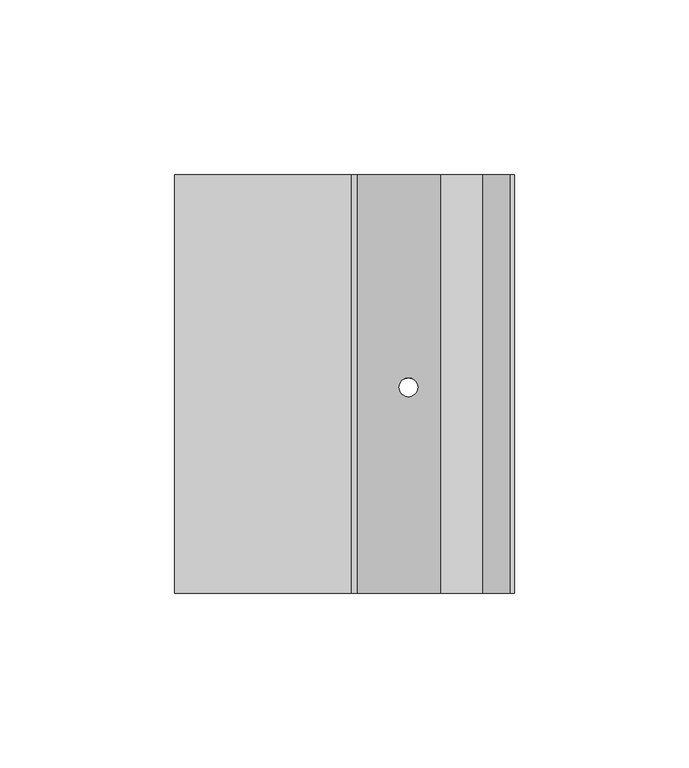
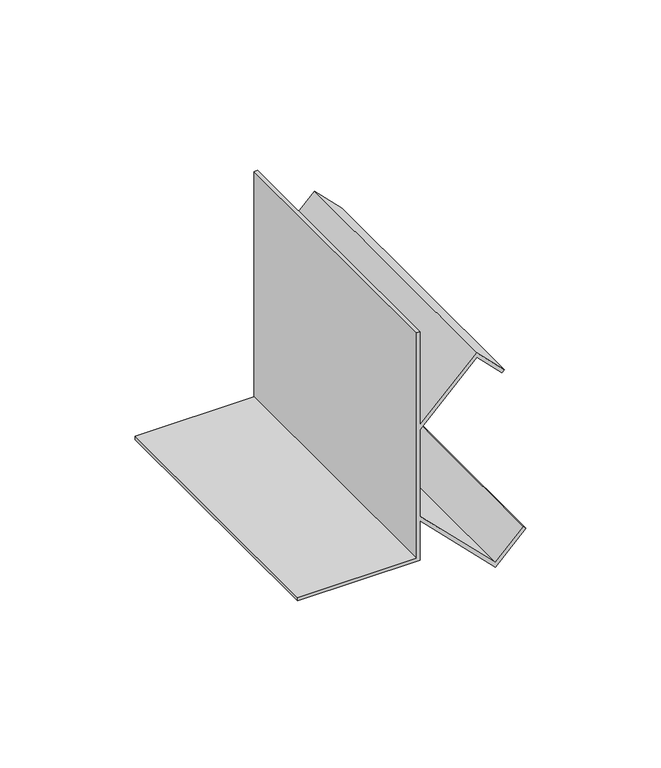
"""IFC4 building model written with IfcOpenShell, lengths in millimetres: proxy geometry, Mechanical Fittings & Accessories10 : Mechanical Fittings & Accessories."""

from ifc_helpers import new_model, si_unit, frame, origin, place, context, project, spatial, polyline, ellipse_curve, source, transform, mapped, element, save
from ifc_brep_helpers import plane_surface, revolved_surface, advanced_brep


def generic_models_4601ddb1(model_context):
    return source(origin(), model_context, "Body", "AdvancedBrep", [
        advanced_brep(
        [(-12208.7639562, 827.5745236, 4114.8), (-12259.5639562, 827.5745236, 4114.8), (-12259.5639562, 827.5745236, 4113.3117188), (-12207.275675, 827.5745236, 4113.3117188), (-12207.275675, 827.5745236, 4131.1383509), (-12175.165914, 827.5745236, 4099.0285899), (-12162.1869427, 827.5745236, 4112.0075612), (-12163.2393164, 827.5745236, 4113.059935), (-12175.165914, 827.5745236, 4101.1333374), (-12207.275675, 827.5745236, 4133.2430984), (-12207.275675, 827.5745236, 4172.2761118), (-12183.103414, 827.5745236, 4196.4483729), (-12172.3674414, 827.5745236, 4185.7124003), (-12171.3150677, 827.5745236, 4186.7647741), (-12183.103414, 827.5745236, 4198.5531204), (-12207.275675, 827.5745236, 4174.3808594), (-12207.275675, 827.5745236, 4216.4), (-12208.7639562, 827.5745236, 4216.4), (-12208.7639562, 947.5426707, 4114.8), (-12208.7639562, 947.5426707, 4216.4), (-12207.275675, 947.5426707, 4216.4), (-12207.275675, 947.5426707, 4174.3808594), (-12183.103414, 947.5426707, 4198.5531204), (-12171.3150677, 947.5426707, 4186.7647741), (-12172.3674414, 947.5426707, 4185.7124003), (-12183.103414, 947.5426707, 4196.4483729), (-12207.275675, 947.5426707, 4172.2761118), (-12207.275675, 947.5426707, 4133.2430984), (-12175.165914, 947.5426707, 4101.1333374), (-12163.2393164, 947.5426707, 4113.059935), (-12162.1869427, 947.5426707, 4112.0075612), (-12175.165914, 947.5426707, 4099.0285899), (-12207.275675, 947.5426707, 4131.1383509), (-12207.275675, 947.5426707, 4113.3117188), (-12259.5639562, 947.5426707, 4113.3117188), (-12259.5639562, 947.5426707, 4114.8), (-12195.1617646, 886.5972731, 4119.0244406), (-12189.8223978, 886.5972731, 4113.6850737), (-12189.8223978, 886.5972731, 4115.7898213), (-12195.1617646, 886.5972731, 4121.1291881), (-12195.1617646, 886.5972731, 4184.3900222), (-12189.8223978, 886.5972731, 4189.729389), (-12189.8223978, 886.5972731, 4191.8341365), (-12195.1617646, 886.5972731, 4186.4947697)],
        [
            (0, 1),
            (1, 2),
            (2, 3),
            (3, 4),
            (4, 5),
            (5, 6),
            (6, 7),
            (7, 8),
            (8, 9),
            (9, 10),
            (10, 11),
            (11, 12),
            (12, 13),
            (13, 14),
            (14, 15),
            (15, 16),
            (16, 17),
            (17, 0),
            (18, 19),
            (19, 20),
            (20, 21),
            (21, 22),
            (22, 23),
            (23, 24),
            (24, 25),
            (25, 26),
            (26, 27),
            (27, 28),
            (28, 29),
            (29, 30),
            (30, 31),
            (31, 32),
            (32, 33),
            (33, 34),
            (34, 35),
            (35, 18),
            (0, 18),
            (35, 1),
            (34, 2),
            (33, 3),
            (32, 4),
            (31, 5),
            (36, 37, ellipse_curve(frame((-12192.4920812, 886.5972731, 4116.3547571), z_axis=(0.7071067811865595, 0.0, 0.7071067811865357), x_axis=(-0.7071067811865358, 0.0, 0.7071067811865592)), 3.7755025, 2.6696834)),
            (37, 36, ellipse_curve(frame((-12192.4920812, 886.5972731, 4116.3547571), z_axis=(0.7071067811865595, 0.0, 0.7071067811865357), x_axis=(-0.7071067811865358, 0.0, 0.7071067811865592)), 3.7755025, 2.6696834)),
            (30, 6),
            (29, 7),
            (28, 8),
            (27, 9),
            (38, 39, ellipse_curve(frame((-12192.4920812, 886.5972731, 4118.4595047), z_axis=(-0.7071067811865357, 0.0, -0.7071067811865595), x_axis=(-0.7071067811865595, 0.0, 0.7071067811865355)), 3.7755025, 2.6696834)),
            (39, 38, ellipse_curve(frame((-12192.4920812, 886.5972731, 4118.4595047), z_axis=(-0.7071067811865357, 0.0, -0.7071067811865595), x_axis=(-0.7071067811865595, 0.0, 0.7071067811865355)), 3.7755025, 2.6696834)),
            (26, 10),
            (25, 11),
            (40, 41, ellipse_curve(frame((-12192.4920812, 886.5972731, 4187.0597056), z_axis=(-0.7071067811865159, 0.0, 0.7071067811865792), x_axis=(0.7071067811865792, 0.0, 0.7071067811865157)), 3.7755025, 2.6696834)),
            (41, 40, ellipse_curve(frame((-12192.4920812, 886.5972731, 4187.0597056), z_axis=(-0.7071067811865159, 0.0, 0.7071067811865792), x_axis=(0.7071067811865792, 0.0, 0.7071067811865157)), 3.7755025, 2.6696834)),
            (24, 12),
            (23, 13),
            (22, 14),
            (21, 15),
            (42, 43, ellipse_curve(frame((-12192.4920812, 886.5972731, 4189.1644531), z_axis=(0.7071067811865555, 0.0, -0.7071067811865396), x_axis=(0.7071067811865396, 0.0, 0.7071067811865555)), 3.7755025, 2.6696834)),
            (43, 42, ellipse_curve(frame((-12192.4920812, 886.5972731, 4189.1644531), z_axis=(0.7071067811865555, 0.0, -0.7071067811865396), x_axis=(0.7071067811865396, 0.0, 0.7071067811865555)), 3.7755025, 2.6696834)),
            (20, 16),
            (19, 17),
            (36, 39),
            (38, 37),
            (40, 43),
            (42, 41),
        ],
        [
            plane_surface(frame((-12259.5639562, 827.5745236, 4114.8), z_axis=(0.0, -1.0, 0.0), x_axis=(-1.0, 0.0, 0.0))),
            plane_surface(frame((-12259.5639562, 947.5426707, 4114.8), z_axis=(0.0, 1.0, 0.0), x_axis=(1.0, 0.0, 0.0))),
            plane_surface(frame((-12208.7639562, 827.5745236, 4114.8), z_axis=(0.0, 0.0, 1.0), x_axis=(0.0, 1.0, 0.0))),
            plane_surface(frame((-12259.5639562, 827.5745236, 4114.8), z_axis=(-1.0, 0.0, 0.0), x_axis=(0.0, 1.0, 0.0))),
            plane_surface(frame((-12259.5639562, 827.5745236, 4113.3117188), z_axis=(0.0, 0.0, -1.0), x_axis=(0.0, 1.0, 0.0))),
            plane_surface(frame((-12207.275675, 827.5745236, 4113.3117188), z_axis=(1.0, 0.0, 0.0), x_axis=(0.0, 1.0, 0.0))),
            plane_surface(frame((-12207.275675, 827.5745236, 4131.1383509), z_axis=(-0.7071067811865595, 0.0, -0.7071067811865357), x_axis=(0.0, 1.0, 0.0))),
            plane_surface(frame((-12175.165914, 827.5745236, 4099.0285899), z_axis=(0.7071067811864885, 0.0, -0.7071067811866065), x_axis=(0.0, 1.0, 0.0))),
            plane_surface(frame((-12162.1869427, 827.5745236, 4112.0075612), z_axis=(0.7071067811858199, 0.0, 0.7071067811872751), x_axis=(0.0, 1.0, 0.0))),
            plane_surface(frame((-12163.2393164, 827.5745236, 4113.059935), z_axis=(-0.7071067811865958, 0.0, 0.7071067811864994), x_axis=(0.0, 1.0, 0.0))),
            plane_surface(frame((-12175.165914, 827.5745236, 4101.1333374), z_axis=(0.7071067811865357, 0.0, 0.7071067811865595), x_axis=(0.0, 1.0, 0.0))),
            plane_surface(frame((-12207.275675, 827.5745236, 4133.2430984), z_axis=(1.0, 0.0, 0.0), x_axis=(0.0, 1.0, 0.0))),
            plane_surface(frame((-12207.275675, 827.5745236, 4172.2761118), z_axis=(0.7071067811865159, 0.0, -0.7071067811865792), x_axis=(0.0, 1.0, 0.0))),
            plane_surface(frame((-12183.103414, 827.5745236, 4196.4483729), z_axis=(-0.7071067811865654, 0.0, -0.7071067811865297), x_axis=(0.0, 1.0, 0.0))),
            plane_surface(frame((-12172.3674414, 827.5745236, 4185.7124003), z_axis=(0.7071067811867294, 0.0, -0.7071067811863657), x_axis=(0.0, 1.0, 0.0))),
            plane_surface(frame((-12171.3150677, 827.5745236, 4186.7647741), z_axis=(0.707106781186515, 0.0, 0.70710678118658), x_axis=(0.0, 1.0, 0.0))),
            plane_surface(frame((-12183.103414, 827.5745236, 4198.5531204), z_axis=(-0.7071067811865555, 0.0, 0.7071067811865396), x_axis=(0.0, 1.0, 0.0))),
            plane_surface(frame((-12207.275675, 827.5745236, 4174.3808594), z_axis=(1.0, 0.0, 0.0), x_axis=(0.0, 1.0, 0.0))),
            plane_surface(frame((-12207.275675, 827.5745236, 4216.4), z_axis=(0.0, 0.0, 1.0), x_axis=(0.0, 1.0, 0.0))),
            plane_surface(frame((-12208.7639562, 827.5745236, 4216.4), z_axis=(-1.0, 0.0, 0.0), x_axis=(0.0, 1.0, 0.0))),
            revolved_surface(polyline([(-12189.8223978, 886.5972731, 4121.129188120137), (-12189.8223978, 886.5972731, 4113.685073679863)]), (-12192.4920812, 886.5972731, 4097.2034211), (0.0, 0.0, 1.0)),
            revolved_surface(polyline([(-12189.8223978, 886.5972731, 4191.834136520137), (-12189.8223978, 886.5972731, 4184.390022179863)]), (-12192.4920812, 886.5972731, 4097.2034211), (0.0, 0.0, 1.0)),
        ],
        [
            (0, [[1, 2, 3, 4, 5, 6, 7, 8, 9, 10, 11, 12, 13, 14, 15, 16, 17, 18]]),
            (1, [[19, 20, 21, 22, 23, 24, 25, 26, 27, 28, 29, 30, 31, 32, 33, 34, 35, 36]]),
            (2, [[-1, 37, -36, 38]]),
            (3, [[-2, -38, -35, 39]]),
            (4, [[-3, -39, -34, 40]]),
            (5, [[-4, -40, -33, 41]]),
            (6, [[-5, -41, -32, 42], [43, 44]]),
            (7, [[-6, -42, -31, 45]]),
            (8, [[-7, -45, -30, 46]]),
            (9, [[-8, -46, -29, 47]]),
            (10, [[-9, -47, -28, 48], [49, 50]]),
            (11, [[-10, -48, -27, 51]]),
            (12, [[-11, -51, -26, 52], [53, 54]]),
            (13, [[-12, -52, -25, 55]]),
            (14, [[-13, -55, -24, 56]]),
            (15, [[-14, -56, -23, 57]]),
            (16, [[-15, -57, -22, 58], [59, 60]]),
            (17, [[-16, -58, -21, 61]]),
            (18, [[-17, -61, -20, 62]]),
            (19, [[-18, -62, -19, -37]]),
            (20, [[63, -49, 64, -43]]),
            (21, [[65, -59, 66, -53]]),
            (20, [[-63, -44, -64, -50]]),
            (21, [[-65, -54, -66, -60]]),
        ],
    ),
    ])


if __name__ == "__main__":
    model = new_model("IFC4")
    model_context = context("Model", 3, world=origin())
    ifc_project = project(units=[si_unit("LENGTHUNIT", "METRE", prefix="MILLI")], contexts=[model_context])
    site = spatial("IfcSite", under=ifc_project)
    building = spatial("IfcBuilding", under=site)
    placement = place(None, origin())
    generic_models_shape = generic_models_4601ddb1(model_context)
    element("IfcBuildingElementProxy", 1, Name="Mechanical Fittings & Accessories10 : Mechanical Fittings & Accessories", ObjectType="Mechanical Fittings & Accessories10 : Mechanical Fittings & Accessories", at=placement, inside=building, context=model_context, shape_type="MappedRepresentation", body=[
        mapped(generic_models_shape, transform((0.0, 0.0, 0.0), x_axis=(1.0, 0.0, 0.0), y_axis=(0.0, 1.0, 0.0), z_axis=(0.0, 0.0, 1.0))),
    ])
    save(model, "model.ifc")
